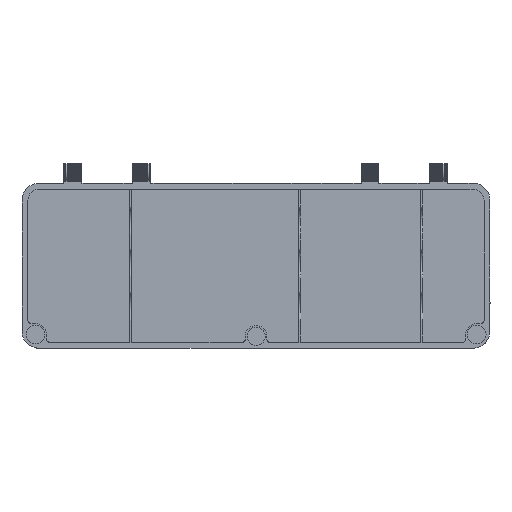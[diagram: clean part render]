
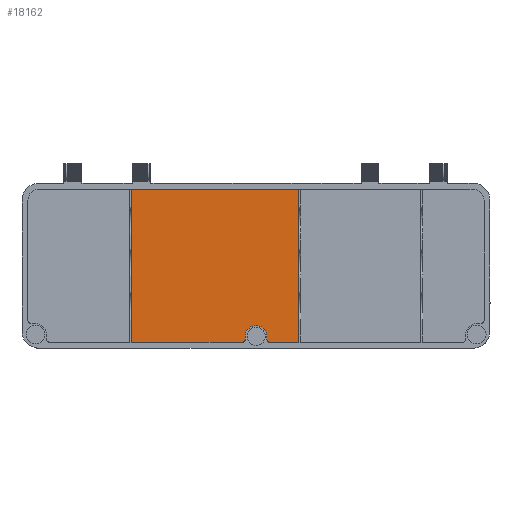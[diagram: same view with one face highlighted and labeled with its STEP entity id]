
A CAD part, top view. The second image highlights one B-rep face of the part: STEP entity #18162.
In plain terms, the highlighted planar face has unit normal (0, 0, 1).
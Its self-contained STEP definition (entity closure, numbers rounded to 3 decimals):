
#34=CIRCLE('',#19113,1.);
#36=CIRCLE('',#19116,3.65);
#37=CIRCLE('',#19117,1.);
#123=FACE_OUTER_BOUND('',#1053,.T.);
#1053=EDGE_LOOP('',(#11887,#11888,#11889,#11890,#11891,#11892,#11893,#11894,
#11895,#11896,#11897,#11898,#11899,#11900,#11901,#11902));
#2039=LINE('',#24863,#4696);
#2040=LINE('',#24867,#4697);
#2041=LINE('',#24871,#4698);
#2042=LINE('',#24873,#4699);
#2043=LINE('',#24875,#4700);
#2044=LINE('',#24877,#4701);
#2045=LINE('',#24879,#4702);
#2046=LINE('',#24881,#4703);
#2047=LINE('',#24883,#4704);
#2048=LINE('',#24885,#4705);
#2049=LINE('',#24887,#4706);
#2050=LINE('',#24889,#4707);
#2051=LINE('',#24890,#4708);
#4696=VECTOR('',#20192,10.);
#4697=VECTOR('',#20195,10.);
#4698=VECTOR('',#20198,10.);
#4699=VECTOR('',#20199,10.);
#4700=VECTOR('',#20200,10.);
#4701=VECTOR('',#20201,10.);
#4702=VECTOR('',#20202,10.);
#4703=VECTOR('',#20203,10.);
#4704=VECTOR('',#20204,10.);
#4705=VECTOR('',#20205,10.);
#4706=VECTOR('',#20206,10.);
#4707=VECTOR('',#20207,10.);
#4708=VECTOR('',#20208,10.);
#7347=VERTEX_POINT('',#24853);
#7348=VERTEX_POINT('',#24854);
#7351=VERTEX_POINT('',#24862);
#7352=VERTEX_POINT('',#24864);
#7353=VERTEX_POINT('',#24866);
#7354=VERTEX_POINT('',#24868);
#7355=VERTEX_POINT('',#24870);
#7356=VERTEX_POINT('',#24872);
#7357=VERTEX_POINT('',#24874);
#7358=VERTEX_POINT('',#24876);
#7359=VERTEX_POINT('',#24878);
#7360=VERTEX_POINT('',#24880);
#7361=VERTEX_POINT('',#24882);
#7362=VERTEX_POINT('',#24884);
#7363=VERTEX_POINT('',#24886);
#7364=VERTEX_POINT('',#24888);
#9151=EDGE_CURVE('',#7347,#7348,#34,.T.);
#9155=EDGE_CURVE('',#7348,#7351,#2039,.T.);
#9156=EDGE_CURVE('',#7351,#7352,#36,.T.);
#9157=EDGE_CURVE('',#7353,#7352,#2040,.F.);
#9158=EDGE_CURVE('',#7353,#7354,#37,.T.);
#9159=EDGE_CURVE('',#7355,#7354,#2041,.T.);
#9160=EDGE_CURVE('',#7355,#7356,#2042,.T.);
#9161=EDGE_CURVE('',#7356,#7357,#2043,.T.);
#9162=EDGE_CURVE('',#7357,#7358,#2044,.T.);
#9163=EDGE_CURVE('',#7358,#7359,#2045,.T.);
#9164=EDGE_CURVE('',#7360,#7359,#2046,.T.);
#9165=EDGE_CURVE('',#7360,#7361,#2047,.T.);
#9166=EDGE_CURVE('',#7361,#7362,#2048,.T.);
#9167=EDGE_CURVE('',#7362,#7363,#2049,.T.);
#9168=EDGE_CURVE('',#7363,#7364,#2050,.T.);
#9169=EDGE_CURVE('',#7347,#7364,#2051,.T.);
#11887=ORIENTED_EDGE('',*,*,#9151,.T.);
#11888=ORIENTED_EDGE('',*,*,#9155,.T.);
#11889=ORIENTED_EDGE('',*,*,#9156,.T.);
#11890=ORIENTED_EDGE('',*,*,#9157,.F.);
#11891=ORIENTED_EDGE('',*,*,#9158,.T.);
#11892=ORIENTED_EDGE('',*,*,#9159,.F.);
#11893=ORIENTED_EDGE('',*,*,#9160,.T.);
#11894=ORIENTED_EDGE('',*,*,#9161,.T.);
#11895=ORIENTED_EDGE('',*,*,#9162,.T.);
#11896=ORIENTED_EDGE('',*,*,#9163,.T.);
#11897=ORIENTED_EDGE('',*,*,#9164,.F.);
#11898=ORIENTED_EDGE('',*,*,#9165,.T.);
#11899=ORIENTED_EDGE('',*,*,#9166,.T.);
#11900=ORIENTED_EDGE('',*,*,#9167,.T.);
#11901=ORIENTED_EDGE('',*,*,#9168,.T.);
#11902=ORIENTED_EDGE('',*,*,#9169,.F.);
#17249=PLANE('',#19115);
#18162=ADVANCED_FACE('',(#123),#17249,.T.);
#19113=AXIS2_PLACEMENT_3D('',#24855,#20184,#20185);
#19115=AXIS2_PLACEMENT_3D('',#24861,#20190,#20191);
#19116=AXIS2_PLACEMENT_3D('',#24865,#20193,#20194);
#19117=AXIS2_PLACEMENT_3D('',#24869,#20196,#20197);
#20184=DIRECTION('center_axis',(0.,0.,1.));
#20185=DIRECTION('ref_axis',(0.707,-0.707,0.));
#20190=DIRECTION('center_axis',(0.,0.,1.));
#20191=DIRECTION('ref_axis',(1.,0.,0.));
#20192=DIRECTION('',(0.,1.,0.));
#20193=DIRECTION('center_axis',(0.,0.,-1.));
#20194=DIRECTION('ref_axis',(1.,0.,0.));
#20195=DIRECTION('',(0.,-1.,0.));
#20196=DIRECTION('center_axis',(0.,0.,1.));
#20197=DIRECTION('ref_axis',(-0.707,-0.707,0.));
#20198=DIRECTION('',(-1.,0.,0.));
#20199=DIRECTION('',(0.,1.,0.));
#20200=DIRECTION('',(0.,1.,0.));
#20201=DIRECTION('',(0.,1.,0.));
#20202=DIRECTION('',(0.,1.,0.));
#20203=DIRECTION('',(1.,0.,0.));
#20204=DIRECTION('',(0.,-1.,0.));
#20205=DIRECTION('',(0.,-1.,0.));
#20206=DIRECTION('',(0.,-1.,0.));
#20207=DIRECTION('',(0.,-1.,0.));
#20208=DIRECTION('',(-1.,0.,0.));
#24853=CARTESIAN_POINT('',(-4.624,-2.399,12.));
#24854=CARTESIAN_POINT('',(-3.624,-1.399,12.));
#24855=CARTESIAN_POINT('Origin',(-4.624,-1.399,12.));
#24861=CARTESIAN_POINT('Origin',(-75.5,92.35,12.));
#24862=CARTESIAN_POINT('',(-3.624,-0.437,12.));
#24863=CARTESIAN_POINT('',(-3.625,44.976,12.));
#24864=CARTESIAN_POINT('',(3.676,-0.436,12.));
#24865=CARTESIAN_POINT('Origin',(0.026,-0.436,
12.));
#24866=CARTESIAN_POINT('',(3.676,-1.399,12.));
#24867=CARTESIAN_POINT('',(3.675,45.957,12.));
#24868=CARTESIAN_POINT('',(4.676,-2.399,12.));
#24869=CARTESIAN_POINT('Origin',(4.676,-1.399,12.));
#24870=CARTESIAN_POINT('',(14.449,-2.399,12.));
#24871=CARTESIAN_POINT('',(73.098,-2.398,12.));
#24872=CARTESIAN_POINT('',(14.449,9.566,12.));
#24873=CARTESIAN_POINT('',(14.449,43.975,12.));
#24874=CARTESIAN_POINT('',(14.449,24.109,12.));
#24875=CARTESIAN_POINT('',(14.449,43.975,12.));
#24876=CARTESIAN_POINT('',(14.449,38.062,12.));
#24877=CARTESIAN_POINT('',(14.449,43.975,12.));
#24878=CARTESIAN_POINT('',(14.449,49.1,12.));
#24879=CARTESIAN_POINT('',(14.449,43.975,12.));
#24880=CARTESIAN_POINT('',(-41.951,49.099,12.));
#24881=CARTESIAN_POINT('',(-73.098,49.099,12.));
#24882=CARTESIAN_POINT('',(-41.951,38.062,12.));
#24883=CARTESIAN_POINT('',(-41.952,74.998,12.));
#24884=CARTESIAN_POINT('',(-41.95,24.109,12.));
#24885=CARTESIAN_POINT('',(-41.952,74.998,12.));
#24886=CARTESIAN_POINT('',(-41.95,9.566,12.));
#24887=CARTESIAN_POINT('',(-41.952,74.998,12.));
#24888=CARTESIAN_POINT('',(-41.949,-2.399,12.));
#24889=CARTESIAN_POINT('',(-41.952,74.998,12.));
#24890=CARTESIAN_POINT('',(73.098,-2.398,12.));
